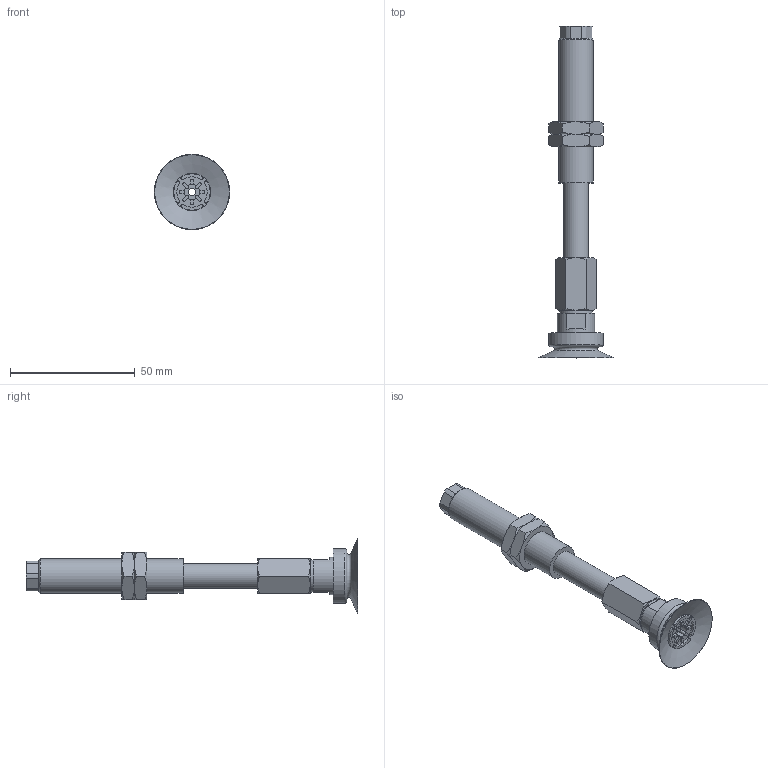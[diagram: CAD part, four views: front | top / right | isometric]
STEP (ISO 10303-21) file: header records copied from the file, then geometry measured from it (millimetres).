
FILE_DESCRIPTION(('STEP AP203'),'1');
FILE_NAME('.stp','2025-08-26T09:04:57',(' '),(' '),'Spatial InterOp 3D',' ',' ');
FILE_SCHEMA(('CONFIG_CONTROL_DESIGN'));
Length unit declared in the file: millimetre
Products named in the file (6): BNABPATS-30-30-※; ADAPTER; NAPATS-30B-30--M; NAPATS-30B-30--F; Nut-25-S; BPAG-30-※
Assembly tree (6 placements, depth 2):
  BNABPATS-30-30-※
    ADAPTER
    NAPATS-30B-30--M
    NAPATS-30B-30--F
    Nut-25-S  x2
    BPAG-30-※
Bounding box: 30.3 x 133.2 x 30.3 mm (x, y, z)
Volume: 20438.6 mm3; surface area: 15091.7 mm2
Topology: 6 solids, 6 shells, 182 faces, 423 edges, 266 vertices
Faces by surface type: plane 77, cylinder 57, cone 46, torus 2
Full cylindrical faces by diameter (mm): 3 x3, 4.134 x1, 4.6 x1, 4.917 x1, 6 x1, 10 x2, 12.917 x2, 13 x1, 14 x1, 15 x1, 22 x1
Entity records: 4995 total; most frequent: CARTESIAN_POINT 1084, DIRECTION 789, ORIENTED_EDGE 694, EDGE_CURVE 347, AXIS2_PLACEMENT_3D 324, VERTEX_POINT 235, EDGE_LOOP 206, FACE_OUTER_BOUND 175
